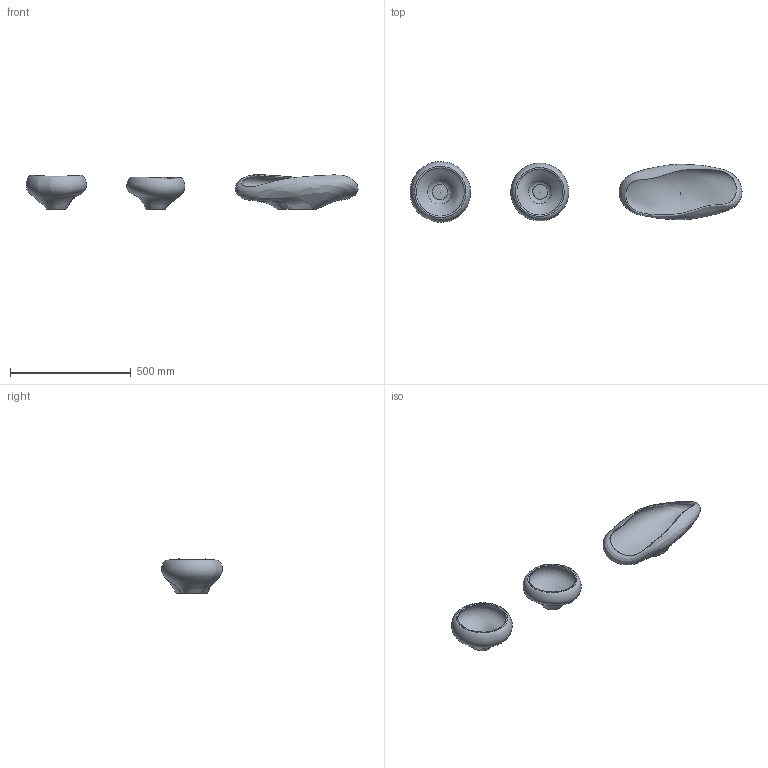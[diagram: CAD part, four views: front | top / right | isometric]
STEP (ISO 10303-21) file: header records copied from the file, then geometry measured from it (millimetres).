
FILE_DESCRIPTION(/* description */ (''),/* implementation_level */ '2;1');
FILE_NAME(/* name */ 'SkLO_BL701,BL703_SwayBowl_3D',/* time_stamp */ '2024-08-09T17:39:09+02:00',/* author */ (''),/* organization */ (''),/* preprocessor_version */ 'ST-DEVELOPER v16.5',/* originating_system */ 'Rhino 7.34',/* authorisation */ '');
FILE_SCHEMA (('CONFIG_CONTROL_DESIGN'));
Length unit declared in the file: millimetre
Products named in the file (1): Document
Bounding box: 1373.76 x 251.15 x 142.95 mm (x, y, z)
Surface area: 896708 mm2 (no closed solid volume)
Topology: 0 solids, 6 shells, 10 faces, 28 edges, 18 vertices
Faces by surface type: bspline 10
Entity records: 289312 total; most frequent: CARTESIAN_POINT 289063, ORIENTED_EDGE 40, EDGE_CURVE 24, B_SPLINE_CURVE_WITH_KNOTS 24, VERTEX_POINT 19, ADVANCED_FACE 10, FACE_OUTER_BOUND 10, EDGE_LOOP 10
